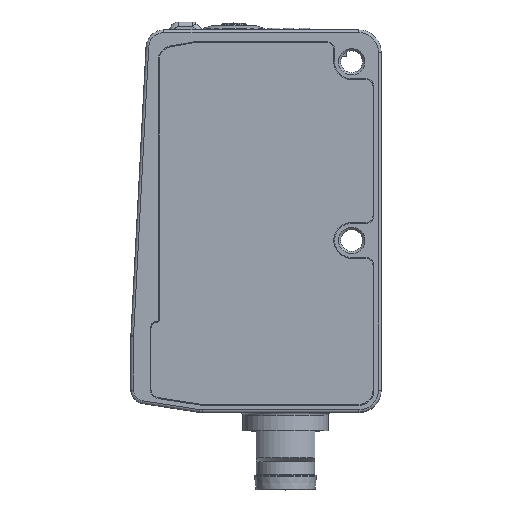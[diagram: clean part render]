
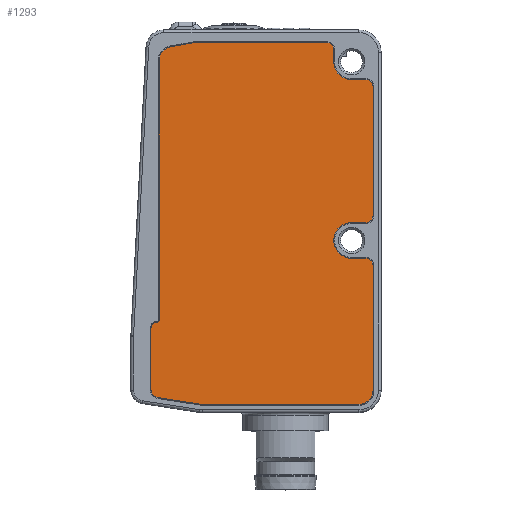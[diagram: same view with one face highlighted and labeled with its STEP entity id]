
A CAD part, top view. The second image highlights one B-rep face of the part: STEP entity #1293.
In plain terms, the highlighted planar face has unit normal (0, 0, 1).
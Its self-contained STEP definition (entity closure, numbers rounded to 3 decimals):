
#1293=ADVANCED_FACE('',(#1662),#1495,.T.);
#1495=PLANE('',#5479);
#1662=FACE_OUTER_BOUND('',#1923,.T.);
#1923=EDGE_LOOP('',(#3041,#3042,#3043,#3044,#3045,#3046,#3047,#3048,#3049,
#3050,#3051,#3052,#3053,#3054,#3055,#3056,#3057,#3058,#3059,#3060,#3061,
#3062,#3063,#3064,#3065));
#2288=CIRCLE('',#5446,2.);
#2289=CIRCLE('',#5451,2.);
#2290=CIRCLE('',#5457,0.8);
#2291=CIRCLE('',#5459,0.8);
#2292=CIRCLE('',#5461,0.8);
#2293=CIRCLE('',#5463,0.8);
#2294=CIRCLE('',#5465,1.6);
#2295=CIRCLE('',#5467,1.);
#2296=CIRCLE('',#5469,1.6);
#2297=CIRCLE('',#5471,1.6);
#2298=CIRCLE('',#5473,0.2);
#2299=CIRCLE('',#5475,0.7);
#2300=CIRCLE('',#5477,1.);
#3041=ORIENTED_EDGE('',*,*,#4339,.F.);
#3042=ORIENTED_EDGE('',*,*,#4387,.T.);
#3043=ORIENTED_EDGE('',*,*,#4374,.F.);
#3044=ORIENTED_EDGE('',*,*,#4383,.T.);
#3045=ORIENTED_EDGE('',*,*,#4371,.F.);
#3046=ORIENTED_EDGE('',*,*,#4380,.T.);
#3047=ORIENTED_EDGE('',*,*,#4368,.F.);
#3048=ORIENTED_EDGE('',*,*,#4379,.T.);
#3049=ORIENTED_EDGE('',*,*,#4365,.F.);
#3050=ORIENTED_EDGE('',*,*,#4364,.F.);
#3051=ORIENTED_EDGE('',*,*,#4361,.F.);
#3052=ORIENTED_EDGE('',*,*,#4378,.T.);
#3053=ORIENTED_EDGE('',*,*,#4358,.F.);
#3054=ORIENTED_EDGE('',*,*,#4377,.T.);
#3055=ORIENTED_EDGE('',*,*,#4355,.F.);
#3056=ORIENTED_EDGE('',*,*,#4354,.F.);
#3057=ORIENTED_EDGE('',*,*,#4351,.F.);
#3058=ORIENTED_EDGE('',*,*,#4376,.T.);
#3059=ORIENTED_EDGE('',*,*,#4348,.F.);
#3060=ORIENTED_EDGE('',*,*,#4381,.T.);
#3061=ORIENTED_EDGE('',*,*,#4345,.F.);
#3062=ORIENTED_EDGE('',*,*,#4382,.T.);
#3063=ORIENTED_EDGE('',*,*,#4342,.F.);
#3064=ORIENTED_EDGE('',*,*,#4385,.T.);
#3065=ORIENTED_EDGE('',*,*,#4386,.T.);
#3837=VERTEX_POINT('',#7970);
#3838=VERTEX_POINT('',#7972);
#3839=VERTEX_POINT('',#7976);
#3840=VERTEX_POINT('',#7978);
#3841=VERTEX_POINT('',#7982);
#3842=VERTEX_POINT('',#7984);
#3843=VERTEX_POINT('',#7988);
#3844=VERTEX_POINT('',#7990);
#3845=VERTEX_POINT('',#7994);
#3846=VERTEX_POINT('',#7996);
#3847=VERTEX_POINT('',#8000);
#3848=VERTEX_POINT('',#8004);
#3849=VERTEX_POINT('',#8008);
#3850=VERTEX_POINT('',#8010);
#3851=VERTEX_POINT('',#8014);
#3852=VERTEX_POINT('',#8016);
#3853=VERTEX_POINT('',#8020);
#3854=VERTEX_POINT('',#8024);
#3855=VERTEX_POINT('',#8028);
#3856=VERTEX_POINT('',#8030);
#3857=VERTEX_POINT('',#8034);
#3858=VERTEX_POINT('',#8036);
#3859=VERTEX_POINT('',#8040);
#3860=VERTEX_POINT('',#8042);
#3861=VERTEX_POINT('',#8062);
#4339=EDGE_CURVE('',#3837,#3838,#4783,.T.);
#4342=EDGE_CURVE('',#3839,#3840,#4786,.T.);
#4345=EDGE_CURVE('',#3841,#3842,#4789,.T.);
#4348=EDGE_CURVE('',#3843,#3844,#4792,.T.);
#4351=EDGE_CURVE('',#3845,#3846,#4795,.T.);
#4354=EDGE_CURVE('',#3846,#3847,#2288,.T.);
#4355=EDGE_CURVE('',#3847,#3848,#4798,.T.);
#4358=EDGE_CURVE('',#3849,#3850,#4801,.T.);
#4361=EDGE_CURVE('',#3851,#3852,#4804,.T.);
#4364=EDGE_CURVE('',#3852,#3853,#2289,.T.);
#4365=EDGE_CURVE('',#3853,#3854,#4807,.T.);
#4368=EDGE_CURVE('',#3855,#3856,#4810,.T.);
#4371=EDGE_CURVE('',#3857,#3858,#4813,.T.);
#4374=EDGE_CURVE('',#3859,#3860,#4816,.T.);
#4376=EDGE_CURVE('',#3845,#3844,#2290,.T.);
#4377=EDGE_CURVE('',#3849,#3848,#2291,.T.);
#4378=EDGE_CURVE('',#3851,#3850,#2292,.T.);
#4379=EDGE_CURVE('',#3855,#3854,#2293,.T.);
#4380=EDGE_CURVE('',#3857,#3856,#2294,.T.);
#4381=EDGE_CURVE('',#3843,#3842,#2295,.T.);
#4382=EDGE_CURVE('',#3841,#3840,#2296,.T.);
#4383=EDGE_CURVE('',#3859,#3858,#2297,.T.);
#4385=EDGE_CURVE('',#3839,#3861,#2298,.T.);
#4386=EDGE_CURVE('',#3861,#3838,#2299,.T.);
#4387=EDGE_CURVE('',#3837,#3860,#2300,.T.);
#4783=LINE('',#7971,#5056);
#4786=LINE('',#7977,#5059);
#4789=LINE('',#7983,#5062);
#4792=LINE('',#7989,#5065);
#4795=LINE('',#7995,#5068);
#4798=LINE('',#8003,#5071);
#4801=LINE('',#8009,#5074);
#4804=LINE('',#8015,#5077);
#4807=LINE('',#8023,#5080);
#4810=LINE('',#8029,#5083);
#4813=LINE('',#8035,#5086);
#4816=LINE('',#8041,#5089);
#5056=VECTOR('',#6335,1.);
#5059=VECTOR('',#6340,1.);
#5062=VECTOR('',#6345,1.);
#5065=VECTOR('',#6350,1.);
#5068=VECTOR('',#6355,1.);
#5071=VECTOR('',#6364,1.);
#5074=VECTOR('',#6369,1.);
#5077=VECTOR('',#6374,1.);
#5080=VECTOR('',#6383,1.);
#5083=VECTOR('',#6388,1.);
#5086=VECTOR('',#6393,1.);
#5089=VECTOR('',#6398,1.);
#5446=AXIS2_PLACEMENT_3D('',#8001,#6360,#6361);
#5451=AXIS2_PLACEMENT_3D('',#8021,#6379,#6380);
#5457=AXIS2_PLACEMENT_3D('',#8045,#6402,#6403);
#5459=AXIS2_PLACEMENT_3D('',#8047,#6406,#6407);
#5461=AXIS2_PLACEMENT_3D('',#8049,#6410,#6411);
#5463=AXIS2_PLACEMENT_3D('',#8051,#6414,#6415);
#5465=AXIS2_PLACEMENT_3D('',#8053,#6418,#6419);
#5467=AXIS2_PLACEMENT_3D('',#8055,#6422,#6423);
#5469=AXIS2_PLACEMENT_3D('',#8057,#6426,#6427);
#5471=AXIS2_PLACEMENT_3D('',#8059,#6430,#6431);
#5473=AXIS2_PLACEMENT_3D('',#8063,#6435,#6436);
#5475=AXIS2_PLACEMENT_3D('',#8065,#6439,#6440);
#5477=AXIS2_PLACEMENT_3D('',#8067,#6443,#6444);
#5479=AXIS2_PLACEMENT_3D('',#8069,#6447,#6448);
#6335=DIRECTION('',(0.,1.,0.));
#6340=DIRECTION('',(0.,1.,0.));
#6345=DIRECTION('',(0.985,0.174,0.));
#6350=DIRECTION('',(1.,0.,0.));
#6355=DIRECTION('',(0.,-1.,0.));
#6360=DIRECTION('',(0.,0.,1.));
#6361=DIRECTION('',(1.,0.,0.));
#6364=DIRECTION('',(1.,0.,0.));
#6369=DIRECTION('',(0.,-1.,0.));
#6374=DIRECTION('',(-1.,0.,0.));
#6379=DIRECTION('',(0.,0.,1.));
#6380=DIRECTION('',(1.,0.,0.));
#6383=DIRECTION('',(1.,0.,0.));
#6388=DIRECTION('',(0.,-1.,0.));
#6393=DIRECTION('',(-1.,0.,0.));
#6398=DIRECTION('',(-0.988,0.153,0.));
#6402=DIRECTION('',(0.,0.,1.));
#6403=DIRECTION('',(1.,0.,0.));
#6406=DIRECTION('',(0.,0.,1.));
#6407=DIRECTION('',(1.,0.,0.));
#6410=DIRECTION('',(0.,0.,1.));
#6411=DIRECTION('',(1.,0.,0.));
#6414=DIRECTION('',(0.,0.,1.));
#6415=DIRECTION('',(1.,0.,0.));
#6418=DIRECTION('',(0.,0.,1.));
#6419=DIRECTION('',(1.,0.,0.));
#6422=DIRECTION('',(0.,0.,1.));
#6423=DIRECTION('',(1.,0.,0.));
#6426=DIRECTION('',(0.,0.,1.));
#6427=DIRECTION('',(1.,0.,0.));
#6430=DIRECTION('',(0.,0.,1.));
#6431=DIRECTION('',(1.,0.,0.));
#6435=DIRECTION('',(0.,0.,-1.));
#6436=DIRECTION('',(1.,0.,0.));
#6439=DIRECTION('',(0.,0.,1.));
#6440=DIRECTION('',(1.,0.,0.));
#6443=DIRECTION('',(0.,0.,1.));
#6444=DIRECTION('',(1.,0.,0.));
#6447=DIRECTION('',(0.,0.,1.));
#6448=DIRECTION('',(1.,0.,0.));
#7970=CARTESIAN_POINT('',(-11.75,-18.751,15.));
#7971=CARTESIAN_POINT('',(-11.75,-19.608,15.));
#7972=CARTESIAN_POINT('',(-11.75,-11.991,15.));
#7976=CARTESIAN_POINT('',(-10.85,-11.091,15.));
#7977=CARTESIAN_POINT('',(-10.85,-11.291,15.));
#7978=CARTESIAN_POINT('',(-10.85,17.944,15.));
#7982=CARTESIAN_POINT('',(-9.528,19.519,15.));
#7983=CARTESIAN_POINT('',(-10.85,19.286,15.));
#7984=CARTESIAN_POINT('',(-6.836,19.994,15.));
#7988=CARTESIAN_POINT('',(-6.663,20.009,15.));
#7989=CARTESIAN_POINT('',(-6.75,20.009,15.));
#7990=CARTESIAN_POINT('',(7.9,20.009,15.));
#7994=CARTESIAN_POINT('',(8.7,19.209,15.));
#7995=CARTESIAN_POINT('',(8.7,20.009,15.));
#7996=CARTESIAN_POINT('',(8.7,17.85,15.));
#8000=CARTESIAN_POINT('',(10.7,15.85,15.));
#8001=CARTESIAN_POINT('',(10.7,17.85,15.));
#8003=CARTESIAN_POINT('',(10.7,15.85,15.));
#8004=CARTESIAN_POINT('',(12.3,15.85,15.));
#8008=CARTESIAN_POINT('',(13.1,15.05,15.));
#8009=CARTESIAN_POINT('',(13.1,15.85,15.));
#8010=CARTESIAN_POINT('',(13.1,0.65,15.));
#8014=CARTESIAN_POINT('',(12.3,-0.15,15.));
#8015=CARTESIAN_POINT('',(13.1,-0.15,15.));
#8016=CARTESIAN_POINT('',(10.7,-0.15,15.));
#8020=CARTESIAN_POINT('',(10.7,-4.15,15.));
#8021=CARTESIAN_POINT('',(10.7,-2.15,15.));
#8023=CARTESIAN_POINT('',(10.7,-4.15,15.));
#8024=CARTESIAN_POINT('',(12.3,-4.15,15.));
#8028=CARTESIAN_POINT('',(13.1,-4.95,15.));
#8029=CARTESIAN_POINT('',(13.1,-4.15,15.));
#8030=CARTESIAN_POINT('',(13.1,-18.891,15.));
#8034=CARTESIAN_POINT('',(11.5,-20.491,15.));
#8035=CARTESIAN_POINT('',(13.1,-20.491,15.));
#8036=CARTESIAN_POINT('',(-5.927,-20.491,15.));
#8040=CARTESIAN_POINT('',(-6.172,-20.472,15.));
#8041=CARTESIAN_POINT('',(-6.05,-20.491,15.));
#8042=CARTESIAN_POINT('',(-10.903,-19.74,15.));
#8045=CARTESIAN_POINT('',(7.9,19.209,15.));
#8047=CARTESIAN_POINT('',(12.3,15.05,15.));
#8049=CARTESIAN_POINT('',(12.3,0.65,15.));
#8051=CARTESIAN_POINT('',(12.3,-4.95,15.));
#8053=CARTESIAN_POINT('',(11.5,-18.891,15.));
#8055=CARTESIAN_POINT('',(-6.663,19.009,15.));
#8057=CARTESIAN_POINT('',(-9.25,17.944,15.));
#8059=CARTESIAN_POINT('',(-5.927,-18.891,15.));
#8062=CARTESIAN_POINT('',(-11.05,-11.291,15.));
#8063=CARTESIAN_POINT('',(-11.05,-11.091,15.));
#8065=CARTESIAN_POINT('',(-11.05,-11.991,15.));
#8067=CARTESIAN_POINT('',(-10.75,-18.751,15.));
#8069=CARTESIAN_POINT('',(10.7,17.85,15.));
